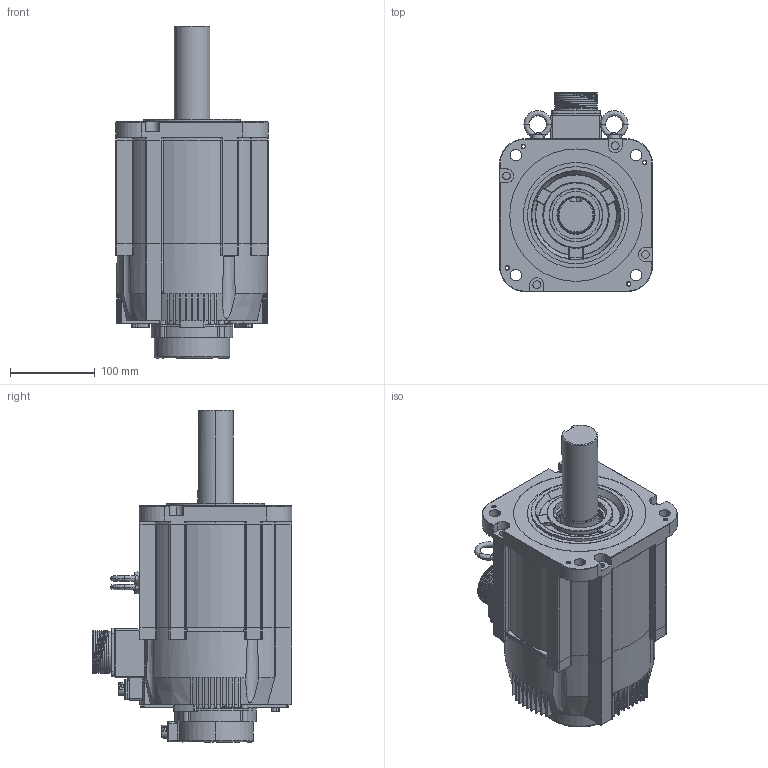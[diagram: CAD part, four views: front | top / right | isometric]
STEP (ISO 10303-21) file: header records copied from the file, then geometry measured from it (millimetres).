
FILE_DESCRIPTION (( 'STEP AP203' ), '1' );
FILE_NAME ('SMP-H550B.STEP', '2021-05-04T05:56:40', ( '' ), ( '' ), 'SwSTEP 2.0', 'SolidWorks 2016', '' );
FILE_SCHEMA (( 'CONFIG_CONTROL_DESIGN' ));
Length unit declared in the file: millimetre
Products named in the file (1): SMP-H550B
Bounding box: 180 x 235.3 x 391 mm (x, y, z)
Surface area: 368503.4 mm2 (no closed solid volume)
Topology: 0 solids, 16 shells, 993 faces, 2999 edges, 1967 vertices
Faces by surface type: cylinder 439, plane 394, bspline 86, cone 74
Entity records: 44245 total; most frequent: CARTESIAN_POINT 17831, DIRECTION 5542, ORIENTED_EDGE 5371, EDGE_CURVE 2964, AXIS2_PLACEMENT_3D 2101, VERTEX_POINT 1967, LINE 1340, VECTOR 1340
